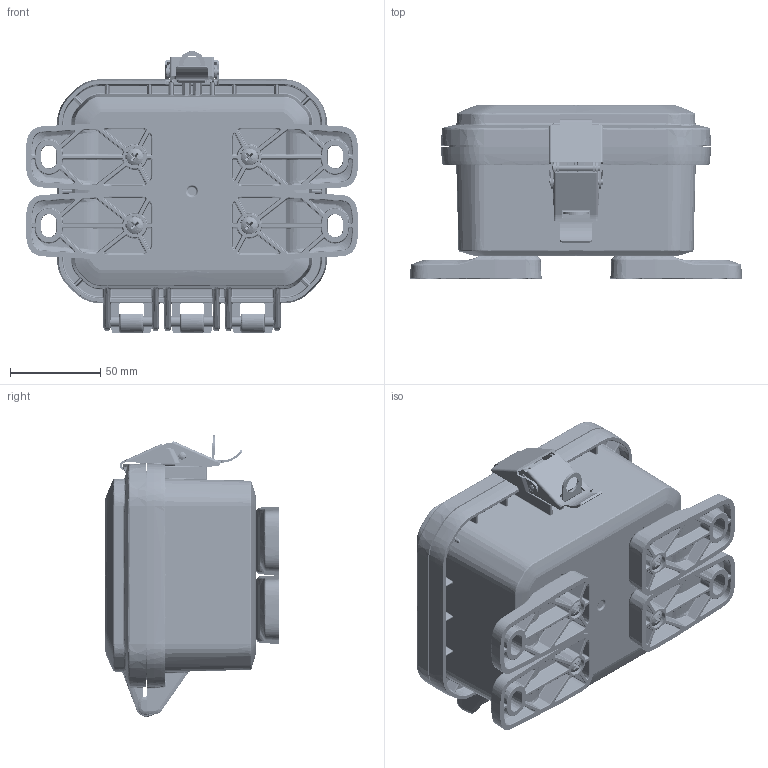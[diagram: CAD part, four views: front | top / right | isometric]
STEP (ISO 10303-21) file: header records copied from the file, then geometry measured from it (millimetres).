
FILE_DESCRIPTION (( 'STEP AP214' ), '1' );
FILE_NAME ('HP-050403-01.STEP', '2024-03-12T17:48:35', ( '' ), ( '' ), 'SwSTEP 2.0', 'SolidWorks 2024', '' );
FILE_SCHEMA (( 'AUTOMOTIVE_DESIGN' ));
Length unit declared in the file: inch
Products named in the file (16): SCREWS-046_SCREWS-046; ZH-01F_ZH-01F-01; HP-050403-01; HP-05041C_HP-05041C-01; ZH-01L1; LABEL-105; ZH-01L4; ZH-01L2; HP-0504xB_HP-05042B-01; ZH-01L5; HP-0504G; HP-05041CG_HP-05041CG-01; ZH-01L3; INSERTS-4; ZH-01L; HP-0504xBI_HP-05042BI-01
Assembly tree (24 placements, depth 3):
  HP-050403-01
    HP-0504xBI_HP-05042BI-01
      HP-0504xB_HP-05042B-01
      LABEL-105
      INSERTS-4  x4
    HP-05041CG_HP-05041CG-01
      HP-05041C_HP-05041C-01
      HP-0504G
    ZH-01L
      ZH-01L1
      ZH-01L2
      ZH-01L3
      ZH-01L4
      ZH-01L5
    ZH-01F_ZH-01F-01  x4
    SCREWS-046_SCREWS-046  x4
Bounding box: 184.15 x 96.01 x 156.17 mm (x, y, z)
Volume: 367441.4 mm3; surface area: 247081.3 mm2
Topology: 21 solids, 21 shells, 6838 faces, 15971 edges, 9086 vertices
Faces by surface type: bspline 2326, cylinder 1217, torus 1136, plane 1133, cone 854, sphere 172
Entity records: 206071 total; most frequent: CARTESIAN_POINT 113577, ORIENTED_EDGE 21436, DIRECTION 16774, EDGE_CURVE 10718, AXIS2_PLACEMENT_3D 6962, VERTEX_POINT 6167, EDGE_LOOP 4689, FACE_OUTER_BOUND 4612
